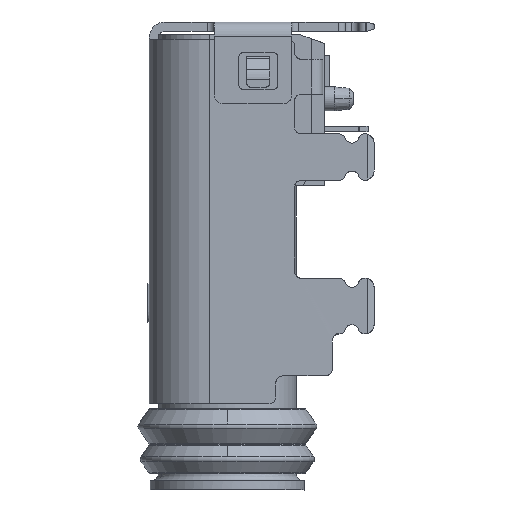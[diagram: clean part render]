
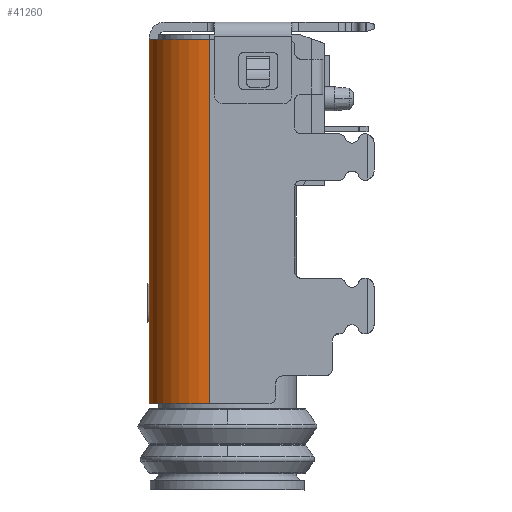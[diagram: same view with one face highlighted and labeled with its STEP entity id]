
A CAD part, left-side view. The second image highlights one B-rep face of the part: STEP entity #41260.
In plain terms, the highlighted cylindrical face has radius 1.3 mm (diameter 2.6 mm), a partial arc.
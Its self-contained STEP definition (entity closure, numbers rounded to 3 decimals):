
#1018 = CARTESIAN_POINT ( 'NONE',  ( -2.852, -0.18, 13.574 ) ) ;
#1387 = DIRECTION ( 'NONE',  ( 0., 0., 1. ) ) ;
#3163 = VECTOR ( 'NONE', #13107, 1000. ) ;
#3331 = DIRECTION ( 'NONE',  ( 0., 0., 1. ) ) ;
#3374 = AXIS2_PLACEMENT_3D ( 'NONE', #33316, #1387, #15610 ) ;
#4750 = FACE_OUTER_BOUND ( 'NONE', #27975, .T. ) ;
#6666 = CIRCLE ( 'NONE', #34202, 1.3 ) ;
#7052 = LINE ( 'NONE', #11004, #34977 ) ;
#9245 = EDGE_CURVE ( 'NONE', #25628, #35017, #17497, .T. ) ;
#11004 = CARTESIAN_POINT ( 'NONE',  ( -2.852, 1.12, 7.308 ) ) ;
#13107 = DIRECTION ( 'NONE',  ( 0., 0., -1. ) ) ;
#15610 = DIRECTION ( 'NONE',  ( 0., 1., 0. ) ) ;
#16050 = ORIENTED_EDGE ( 'NONE', *, *, #9245, .T. ) ;
#16220 = EDGE_CURVE ( 'NONE', #25628, #27546, #7052, .T. ) ;
#16612 = LINE ( 'NONE', #45036, #3163 ) ;
#17497 = CIRCLE ( 'NONE', #3374, 1.3 ) ;
#20375 = CARTESIAN_POINT ( 'NONE',  ( -2.852, 1.12, 7.308 ) ) ;
#20797 = ORIENTED_EDGE ( 'NONE', *, *, #16220, .F. ) ;
#22663 = DIRECTION ( 'NONE',  ( -1., 0., 0. ) ) ;
#25142 = DIRECTION ( 'NONE',  ( -1., 0., 0. ) ) ;
#25628 = VERTEX_POINT ( 'NONE', #20375 ) ;
#27362 = EDGE_CURVE ( 'NONE', #42768, #35017, #16612, .T. ) ;
#27546 = VERTEX_POINT ( 'NONE', #28947 ) ;
#27975 = EDGE_LOOP ( 'NONE', ( #37412, #31978, #20797, #16050 ) ) ;
#28408 = CARTESIAN_POINT ( 'NONE',  ( -2.852, -0.18, 15.138 ) ) ;
#28947 = CARTESIAN_POINT ( 'NONE',  ( -2.852, 1.12, 15.138 ) ) ;
#31978 = ORIENTED_EDGE ( 'NONE', *, *, #34848, .T. ) ;
#33080 = AXIS2_PLACEMENT_3D ( 'NONE', #1018, #44108, #22663 ) ;
#33316 = CARTESIAN_POINT ( 'NONE',  ( -2.852, -0.18, 7.308 ) ) ;
#34202 = AXIS2_PLACEMENT_3D ( 'NONE', #28408, #35158, #25142 ) ;
#34848 = EDGE_CURVE ( 'NONE', #42768, #27546, #6666, .T. ) ;
#34977 = VECTOR ( 'NONE', #3331, 1000. ) ;
#35017 = VERTEX_POINT ( 'NONE', #36552 ) ;
#35158 = DIRECTION ( 'NONE',  ( 0., 0., -1. ) ) ;
#36552 = CARTESIAN_POINT ( 'NONE',  ( -4.152, -0.18, 7.308 ) ) ;
#37412 = ORIENTED_EDGE ( 'NONE', *, *, #27362, .F. ) ;
#40835 = CYLINDRICAL_SURFACE ( 'NONE', #33080, 1.3 ) ;
#41112 = CARTESIAN_POINT ( 'NONE',  ( -4.152, -0.18, 15.138 ) ) ;
#41260 = ADVANCED_FACE ( 'NONE', ( #4750 ), #40835, .T. ) ;
#42768 = VERTEX_POINT ( 'NONE', #41112 ) ;
#44108 = DIRECTION ( 'NONE',  ( 0., 0., -1. ) ) ;
#45036 = CARTESIAN_POINT ( 'NONE',  ( -4.152, -0.18, 15.138 ) ) ;
